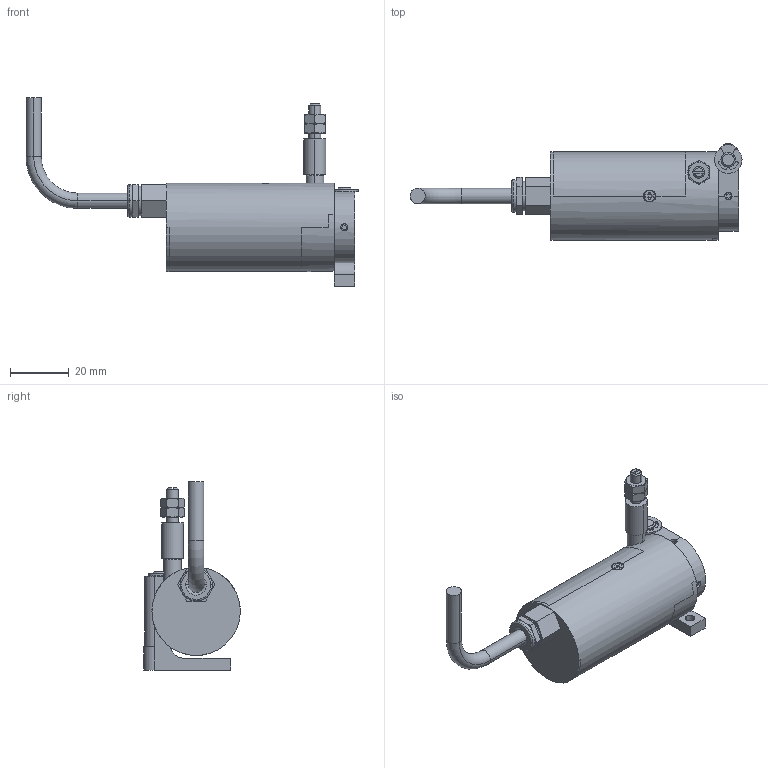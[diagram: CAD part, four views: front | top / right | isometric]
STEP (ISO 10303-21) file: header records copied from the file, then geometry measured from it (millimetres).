
FILE_DESCRIPTION((''),'2;1');
FILE_NAME('','2007-03-19T',(''),(''),'PRO/ENGINEER BY PARAMETRIC TECHNOLOGY CORPORATION, 2003250','PRO/ENGINEER BY PARAMETRIC TECHNOLOGY CORPORATION, 2003250','');
FILE_SCHEMA(('CONFIG_CONTROL_DESIGN'));
Length unit declared in the file: millimetre
Bounding box: 112.75 x 32.8 x 64 mm (x, y, z)
Volume: 23595.5 mm3; surface area: 19346.1 mm2
Topology: 1 solids, 9 shells, 336 faces, 839 edges, 540 vertices
Faces by surface type: plane 146, cylinder 126, cone 40, torus 24
Entity records: 11113 total; most frequent: CARTESIAN_POINT 2942, DIRECTION 1750, ORIENTED_EDGE 1654, EDGE_CURVE 827, AXIS2_PLACEMENT_3D 673, VERTEX_POINT 540, VECTOR 404, LINE 404
